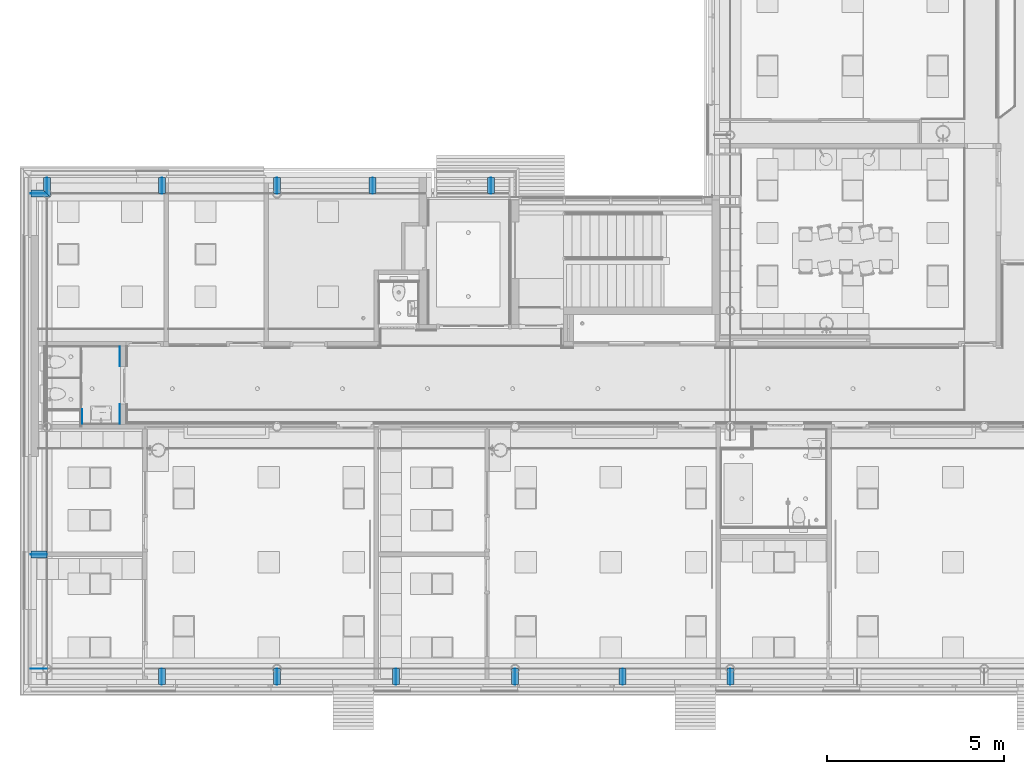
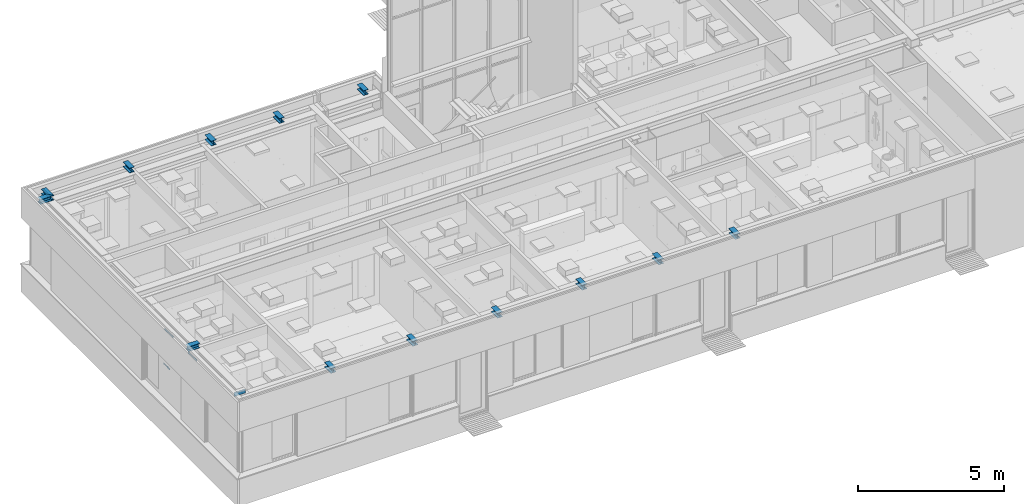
# One storey, part 127 of 347: 43 building element parts, 17 elements without a shape of their own.
"""IFC2X3 building model written with IfcOpenShell, lengths in millimetres."""

from ifc_helpers import new_model, entity, si_unit, converted_unit, derived_unit, money_unit, direction, frame, origin_with_axes, place, context, subcontext, project, spatial, faceted_brep, material, type_object, element, aggregate, save


model = new_model("IFC2X3")

# Units and contexts
model_context = context("Model", 3, precision=0.01, world=origin_with_axes(), true_north=direction((0.0, 1.0)))
plan_context = context("Plan", 3, precision=0.01, world=origin_with_axes(), true_north=direction((0.0, 1.0)))
body_context = subcontext(model_context, "Body", "Model", "MODEL_VIEW")
ifc_project = project(units=[si_unit("LENGTHUNIT", "METRE", prefix="MILLI"), si_unit("AREAUNIT", "SQUARE_METRE"), si_unit("VOLUMEUNIT", "CUBIC_METRE"), converted_unit("PLANEANGLEUNIT", "DEGREE", entity("IfcPlaneAngleMeasure", 0.0174532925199), si_unit("PLANEANGLEUNIT", "RADIAN"), dimensions=[0, 0, 0, 0, 0, 0, 0]), money_unit("EUR"), converted_unit("TIMEUNIT", "Year", entity("IfcTimeMeasure", 31556926.0), si_unit("TIMEUNIT", "SECOND"), dimensions=[0, 0, 1, 0, 0, 0, 0]), si_unit("MASSUNIT", "GRAM", prefix="KILO"), si_unit("THERMODYNAMICTEMPERATUREUNIT", "DEGREE_CELSIUS"), si_unit("LUMINOUSINTENSITYUNIT", "LUMEN"), si_unit("ENERGYUNIT", "JOULE", prefix="MEGA"), derived_unit("THERMALCONDUCTANCEUNIT", [(si_unit("POWERUNIT", "WATT"), 1), (si_unit("LENGTHUNIT", "METRE"), -1), (si_unit("THERMODYNAMICTEMPERATUREUNIT", "KELVIN"), -1)]), derived_unit("SPECIFICHEATCAPACITYUNIT", [(si_unit("ENERGYUNIT", "JOULE"), 1), (si_unit("MASSUNIT", "GRAM", prefix="KILO"), -1), (si_unit("THERMODYNAMICTEMPERATUREUNIT", "KELVIN"), -1)]), derived_unit("MASSDENSITYUNIT", [(si_unit("MASSUNIT", "GRAM", prefix="KILO"), 1), (si_unit("VOLUMEUNIT", "CUBIC_METRE"), -1)])], contexts=[model_context, plan_context])

# Site, building, storey
site_placement = place(None, origin_with_axes())
site = spatial("IfcSite", under=ifc_project, at=site_placement, Name="Site", CompositionType="ELEMENT")
building_placement = place(site_placement, origin_with_axes())
building = spatial("IfcBuilding", under=site, at=building_placement, Name="Naam gebouw", CompositionType="ELEMENT")
storey_placement = place(building_placement, origin_with_axes())
storey = spatial("IfcBuildingStorey", under=building, at=storey_placement, Name="begane grond", CompositionType="ELEMENT", Elevation=0.0)

# Beam, building element parts
beam_type = type_object("IfcBeamType", Name="28 HEB200 200 x 200", PredefinedType="BEAM")
beam_1_placement = place(storey_placement, frame((18505.0, 4850.0, 3560.0), z_axis=(0.0, 0.0, 1.0), x_axis=(1.0, 0.0, 0.0)))
beam_1 = element("IfcBeam", 1, at=beam_1_placement, inside=storey, type_object=beam_type, Name="28_Balk-x", ObjectType="BEAM")
ifc_material_1 = material(Name="Metaal - Staal C")
building_element_part_1_placement = place(beam_1_placement, origin_with_axes())
building_element_part_1 = element("IfcBuildingElementPart", 2, at=building_element_part_1_placement, material=ifc_material_1, Name="Metaal - Staal C", context=body_context, shape_type="Brep", body=[
    faceted_brep([(-100.0, 450.0, 185.0), (-4.5, 450.0, 185.0), (-4.5, 0.0, 185.0), (-100.0, 0.0, 185.0), (-100.0, 450.0, 200.0), (100.0, 450.0, 200.0), (100.0, 450.0, 185.0), (4.5, 450.0, 185.0), (4.5, 0.0, 185.0), (100.0, 0.0, 185.0), (100.0, 0.0, 200.0), (-100.0, 0.0, 200.0)], [[[0, 1, 2, 3]], [[0, 4, 5, 6, 7, 1]], [[1, 7, 8, 2]], [[3, 2, 8, 9, 10, 11]], [[4, 0, 3, 11]], [[5, 4, 11, 10]], [[6, 5, 10, 9]], [[7, 6, 9, 8]]]),
])
building_element_part_2_placement = place(beam_1_placement, origin_with_axes())
building_element_part_2 = element("IfcBuildingElementPart", 3, at=building_element_part_2_placement, material=ifc_material_1, Name="Metaal - Staal C", context=body_context, shape_type="Brep", body=[
    faceted_brep([(-100.0, 450.0, 15.0), (-100.0, 450.0, 0.0), (-100.0, 0.0, 0.0), (-100.0, 0.0, 15.0), (-4.5, 450.0, 15.0), (4.5, 450.0, 15.0), (100.0, 450.0, 15.0), (100.0, 450.0, 0.0), (100.0, 0.0, 0.0), (100.0, 0.0, 15.0), (4.5, 0.0, 15.0), (-4.5, 0.0, 15.0)], [[[0, 1, 2, 3]], [[0, 4, 5, 6, 7, 1]], [[1, 7, 8, 2]], [[3, 2, 8, 9, 10, 11]], [[4, 0, 3, 11]], [[5, 4, 11, 10]], [[6, 5, 10, 9]], [[7, 6, 9, 8]]]),
])
building_element_part_3_placement = place(beam_1_placement, origin_with_axes())
building_element_part_3 = element("IfcBuildingElementPart", 4, at=building_element_part_3_placement, material=ifc_material_1, Name="Metaal - Staal C", context=body_context, shape_type="Brep", body=[
    faceted_brep([(-4.5, 450.0, 15.0), (4.5, 450.0, 15.0), (4.5, 0.0, 15.0), (-4.5, 0.0, 15.0), (-4.5, 450.0, 185.0), (4.5, 450.0, 185.0), (4.5, 0.0, 185.0), (-4.5, 0.0, 185.0)], [[[0, 1, 2, 3]], [[0, 4, 5, 1]], [[1, 5, 6, 2]], [[3, 2, 6, 7]], [[4, 0, 3, 7]], [[5, 4, 7, 6]]]),
])
aggregate(beam_1, [building_element_part_1, building_element_part_2, building_element_part_3])

beam_2_placement = place(storey_placement, frame((24575.0, 4850.0, 3560.0), z_axis=(0.0, 0.0, 1.0), x_axis=(1.0, 0.0, 0.0)))
beam_2 = element("IfcBeam", 5, at=beam_2_placement, inside=storey, type_object=beam_type, Name="28_Balk-x", ObjectType="BEAM")
building_element_part_4_placement = place(beam_2_placement, origin_with_axes())
building_element_part_4 = element("IfcBuildingElementPart", 6, at=building_element_part_4_placement, material=ifc_material_1, Name="Metaal - Staal C", context=body_context, shape_type="Brep", body=[
    faceted_brep([(-100.0, 450.0, 185.0), (-4.5, 450.0, 185.0), (-4.5, 0.0, 185.0), (-100.0, 0.0, 185.0), (-100.0, 450.0, 200.0), (100.0, 450.0, 200.0), (100.0, 450.0, 185.0), (4.5, 450.0, 185.0), (4.5, 0.0, 185.0), (100.0, 0.0, 185.0), (100.0, 0.0, 200.0), (-100.0, 0.0, 200.0)], [[[0, 1, 2, 3]], [[0, 4, 5, 6, 7, 1]], [[1, 7, 8, 2]], [[3, 2, 8, 9, 10, 11]], [[4, 0, 3, 11]], [[5, 4, 11, 10]], [[6, 5, 10, 9]], [[7, 6, 9, 8]]]),
])
building_element_part_5_placement = place(beam_2_placement, origin_with_axes())
building_element_part_5 = element("IfcBuildingElementPart", 7, at=building_element_part_5_placement, material=ifc_material_1, Name="Metaal - Staal C", context=body_context, shape_type="Brep", body=[
    faceted_brep([(-100.0, 450.0, 15.0), (-100.0, 450.0, 0.0), (-100.0, 0.0, 0.0), (-100.0, 0.0, 15.0), (-4.5, 450.0, 15.0), (4.5, 450.0, 15.0), (100.0, 450.0, 15.0), (100.0, 450.0, 0.0), (100.0, 0.0, 0.0), (100.0, 0.0, 15.0), (4.5, 0.0, 15.0), (-4.5, 0.0, 15.0)], [[[0, 1, 2, 3]], [[0, 4, 5, 6, 7, 1]], [[1, 7, 8, 2]], [[3, 2, 8, 9, 10, 11]], [[4, 0, 3, 11]], [[5, 4, 11, 10]], [[6, 5, 10, 9]], [[7, 6, 9, 8]]]),
])
building_element_part_6_placement = place(beam_2_placement, origin_with_axes())
building_element_part_6 = element("IfcBuildingElementPart", 8, at=building_element_part_6_placement, material=ifc_material_1, Name="Metaal - Staal C", context=body_context, shape_type="Brep", body=[
    faceted_brep([(-4.5, 450.0, 15.0), (4.5, 450.0, 15.0), (4.5, 0.0, 15.0), (-4.5, 0.0, 15.0), (-4.5, 450.0, 185.0), (4.5, 450.0, 185.0), (4.5, 0.0, 185.0), (-4.5, 0.0, 185.0)], [[[0, 1, 2, 3]], [[0, 4, 5, 1]], [[1, 5, 6, 2]], [[3, 2, 6, 7]], [[4, 0, 3, 7]], [[5, 4, 7, 6]]]),
])
aggregate(beam_2, [building_element_part_4, building_element_part_5, building_element_part_6])

beam_3_placement = place(storey_placement, frame((8540.0, 4849.9999999, 3560.0), z_axis=(0.0, 0.0, 1.0), x_axis=(1.0, 0.0, 0.0)))
beam_3 = element("IfcBeam", 9, at=beam_3_placement, inside=storey, type_object=beam_type, Name="28_Balk-x", ObjectType="BEAM")
building_element_part_7_placement = place(beam_3_placement, origin_with_axes())
building_element_part_7 = element("IfcBuildingElementPart", 10, at=building_element_part_7_placement, material=ifc_material_1, Name="Metaal - Staal C", context=body_context, shape_type="Brep", body=[
    faceted_brep([(-100.0, 450.0, 185.0), (-4.5, 450.0, 185.0), (-4.5, 0.0, 185.0), (-100.0, 0.0, 185.0), (-100.0, 450.0, 200.0), (100.0, 450.0, 200.0), (100.0, 450.0, 185.0), (4.5, 450.0, 185.0), (4.5, 0.0, 185.0), (100.0, 0.0, 185.0), (100.0, 0.0, 200.0), (-100.0, 0.0, 200.0)], [[[0, 1, 2, 3]], [[0, 4, 5, 6, 7, 1]], [[1, 7, 8, 2]], [[3, 2, 8, 9, 10, 11]], [[4, 0, 3, 11]], [[5, 4, 11, 10]], [[6, 5, 10, 9]], [[7, 6, 9, 8]]]),
])
building_element_part_8_placement = place(beam_3_placement, origin_with_axes())
building_element_part_8 = element("IfcBuildingElementPart", 11, at=building_element_part_8_placement, material=ifc_material_1, Name="Metaal - Staal C", context=body_context, shape_type="Brep", body=[
    faceted_brep([(-100.0, 450.0, 15.0), (-100.0, 450.0, 0.0), (-100.0, 0.0, 0.0), (-100.0, 0.0, 15.0), (-4.5, 450.0, 15.0), (4.5, 450.0, 15.0), (100.0, 450.0, 15.0), (100.0, 450.0, 0.0), (100.0, 0.0, 0.0), (100.0, 0.0, 15.0), (4.5, 0.0, 15.0), (-4.5, 0.0, 15.0)], [[[0, 1, 2, 3]], [[0, 4, 5, 6, 7, 1]], [[1, 7, 8, 2]], [[3, 2, 8, 9, 10, 11]], [[4, 0, 3, 11]], [[5, 4, 11, 10]], [[6, 5, 10, 9]], [[7, 6, 9, 8]]]),
])
building_element_part_9_placement = place(beam_3_placement, origin_with_axes())
building_element_part_9 = element("IfcBuildingElementPart", 12, at=building_element_part_9_placement, material=ifc_material_1, Name="Metaal - Staal C", context=body_context, shape_type="Brep", body=[
    faceted_brep([(-4.5, 450.0, 15.0), (4.5, 450.0, 15.0), (4.5, 0.0, 15.0), (-4.5, 0.0, 15.0), (-4.5, 450.0, 185.0), (4.5, 450.0, 185.0), (4.5, 0.0, 185.0), (-4.5, 0.0, 185.0)], [[[0, 1, 2, 3]], [[0, 4, 5, 1]], [[1, 5, 6, 2]], [[3, 2, 6, 7]], [[4, 0, 3, 7]], [[5, 4, 7, 6]]]),
])
aggregate(beam_3, [building_element_part_7, building_element_part_8, building_element_part_9])

beam_4_placement = place(storey_placement, frame((15146.25, 4850.0000004, 3560.0), z_axis=(0.0, 0.0, 1.0), x_axis=(1.0, 0.0, 0.0)))
beam_4 = element("IfcBeam", 13, at=beam_4_placement, inside=storey, type_object=beam_type, Name="28_Balk-x", ObjectType="BEAM")
building_element_part_10_placement = place(beam_4_placement, origin_with_axes())
building_element_part_10 = element("IfcBuildingElementPart", 14, at=building_element_part_10_placement, material=ifc_material_1, Name="Metaal - Staal C", context=body_context, shape_type="Brep", body=[
    faceted_brep([(-100.0, 450.0, 185.0), (-4.5, 450.0, 185.0), (-4.5, 0.0, 185.0), (-100.0, 0.0, 185.0), (-100.0, 450.0, 200.0), (100.0, 450.0, 200.0), (100.0, 450.0, 185.0), (4.5, 450.0, 185.0), (4.5, 0.0, 185.0), (100.0, 0.0, 185.0), (100.0, 0.0, 200.0), (-100.0, 0.0, 200.0)], [[[0, 1, 2, 3]], [[0, 4, 5, 6, 7, 1]], [[1, 7, 8, 2]], [[3, 2, 8, 9, 10, 11]], [[4, 0, 3, 11]], [[5, 4, 11, 10]], [[6, 5, 10, 9]], [[7, 6, 9, 8]]]),
])
building_element_part_11_placement = place(beam_4_placement, origin_with_axes())
building_element_part_11 = element("IfcBuildingElementPart", 15, at=building_element_part_11_placement, material=ifc_material_1, Name="Metaal - Staal C", context=body_context, shape_type="Brep", body=[
    faceted_brep([(-100.0, 450.0, 15.0), (-100.0, 450.0, 0.0), (-100.0, 0.0, 0.0), (-100.0, 0.0, 15.0), (-4.5, 450.0, 15.0), (4.5, 450.0, 15.0), (100.0, 450.0, 15.0), (100.0, 450.0, 0.0), (100.0, 0.0, 0.0), (100.0, 0.0, 15.0), (4.5, 0.0, 15.0), (-4.5, 0.0, 15.0)], [[[0, 1, 2, 3]], [[0, 4, 5, 6, 7, 1]], [[1, 7, 8, 2]], [[3, 2, 8, 9, 10, 11]], [[4, 0, 3, 11]], [[5, 4, 11, 10]], [[6, 5, 10, 9]], [[7, 6, 9, 8]]]),
])
building_element_part_12_placement = place(beam_4_placement, origin_with_axes())
building_element_part_12 = element("IfcBuildingElementPart", 16, at=building_element_part_12_placement, material=ifc_material_1, Name="Metaal - Staal C", context=body_context, shape_type="Brep", body=[
    faceted_brep([(-4.5, 450.0, 15.0), (4.5, 450.0, 15.0), (4.5, 0.0, 15.0), (-4.5, 0.0, 15.0), (-4.5, 450.0, 185.0), (4.5, 450.0, 185.0), (4.5, 0.0, 185.0), (-4.5, 0.0, 185.0)], [[[0, 1, 2, 3]], [[0, 4, 5, 1]], [[1, 5, 6, 2]], [[3, 2, 6, 7]], [[4, 0, 3, 7]], [[5, 4, 7, 6]]]),
])
aggregate(beam_4, [building_element_part_10, building_element_part_11, building_element_part_12])

beam_5_placement = place(storey_placement, frame((11787.5, 18700.0000001, 3560.0), z_axis=(0.0, 0.0, 1.0), x_axis=(1.0, 0.0, 0.0)))
beam_5 = element("IfcBeam", 17, at=beam_5_placement, inside=storey, type_object=beam_type, Name="28_Balk-x", ObjectType="BEAM")
building_element_part_13_placement = place(beam_5_placement, origin_with_axes())
building_element_part_13 = element("IfcBuildingElementPart", 18, at=building_element_part_13_placement, material=ifc_material_1, Name="Metaal - Staal C", context=body_context, shape_type="Brep", body=[
    faceted_brep([(-100.0, 450.0, 185.0), (-4.5, 450.0, 185.0), (-4.5, 0.0, 185.0), (-100.0, 0.0, 185.0), (-100.0, 450.0, 200.0), (100.0, 450.0, 200.0), (100.0, 450.0, 185.0), (4.5, 450.0, 185.0), (4.5, 0.0, 185.0), (100.0, 0.0, 185.0), (100.0, 0.0, 200.0), (-100.0, 0.0, 200.0)], [[[0, 1, 2, 3]], [[0, 4, 5, 6, 7, 1]], [[1, 7, 8, 2]], [[3, 2, 8, 9, 10, 11]], [[4, 0, 3, 11]], [[5, 4, 11, 10]], [[6, 5, 10, 9]], [[7, 6, 9, 8]]]),
])
building_element_part_14_placement = place(beam_5_placement, origin_with_axes())
building_element_part_14 = element("IfcBuildingElementPart", 19, at=building_element_part_14_placement, material=ifc_material_1, Name="Metaal - Staal C", context=body_context, shape_type="Brep", body=[
    faceted_brep([(-100.0, 450.0, 15.0), (-100.0, 450.0, 0.0), (-100.0, 0.0, 0.0), (-100.0, 0.0, 15.0), (-4.5, 450.0, 15.0), (4.5, 450.0, 15.0), (100.0, 450.0, 15.0), (100.0, 450.0, 0.0), (100.0, 0.0, 0.0), (100.0, 0.0, 15.0), (4.5, 0.0, 15.0), (-4.5, 0.0, 15.0)], [[[0, 1, 2, 3]], [[0, 4, 5, 6, 7, 1]], [[1, 7, 8, 2]], [[3, 2, 8, 9, 10, 11]], [[4, 0, 3, 11]], [[5, 4, 11, 10]], [[6, 5, 10, 9]], [[7, 6, 9, 8]]]),
])
building_element_part_15_placement = place(beam_5_placement, origin_with_axes())
building_element_part_15 = element("IfcBuildingElementPart", 20, at=building_element_part_15_placement, material=ifc_material_1, Name="Metaal - Staal C", context=body_context, shape_type="Brep", body=[
    faceted_brep([(-4.5, 450.0, 15.0), (4.5, 450.0, 15.0), (4.5, 0.0, 15.0), (-4.5, 0.0, 15.0), (-4.5, 450.0, 185.0), (4.5, 450.0, 185.0), (4.5, 0.0, 185.0), (-4.5, 0.0, 185.0)], [[[0, 1, 2, 3]], [[0, 4, 5, 1]], [[1, 5, 6, 2]], [[3, 2, 6, 7]], [[4, 0, 3, 7]], [[5, 4, 7, 6]]]),
])
aggregate(beam_5, [building_element_part_13, building_element_part_14, building_element_part_15])

beam_6_placement = place(storey_placement, frame((11787.5, 4849.9999999, 3560.0), z_axis=(0.0, 0.0, 1.0), x_axis=(1.0, 0.0, 0.0)))
beam_6 = element("IfcBeam", 21, at=beam_6_placement, inside=storey, type_object=beam_type, Name="28_Balk-x", ObjectType="BEAM")
building_element_part_16_placement = place(beam_6_placement, origin_with_axes())
building_element_part_16 = element("IfcBuildingElementPart", 22, at=building_element_part_16_placement, material=ifc_material_1, Name="Metaal - Staal C", context=body_context, shape_type="Brep", body=[
    faceted_brep([(-100.0, 450.0, 185.0), (-4.5, 450.0, 185.0), (-4.5, 0.0, 185.0), (-100.0, 0.0, 185.0), (-100.0, 450.0, 200.0), (100.0, 450.0, 200.0), (100.0, 450.0, 185.0), (4.5, 450.0, 185.0), (4.5, 0.0, 185.0), (100.0, 0.0, 185.0), (100.0, 0.0, 200.0), (-100.0, 0.0, 200.0)], [[[0, 1, 2, 3]], [[0, 4, 5, 6, 7, 1]], [[1, 7, 8, 2]], [[3, 2, 8, 9, 10, 11]], [[4, 0, 3, 11]], [[5, 4, 11, 10]], [[6, 5, 10, 9]], [[7, 6, 9, 8]]]),
])
building_element_part_17_placement = place(beam_6_placement, origin_with_axes())
building_element_part_17 = element("IfcBuildingElementPart", 23, at=building_element_part_17_placement, material=ifc_material_1, Name="Metaal - Staal C", context=body_context, shape_type="Brep", body=[
    faceted_brep([(-100.0, 450.0, 15.0), (-100.0, 450.0, 0.0), (-100.0, 0.0, 0.0), (-100.0, 0.0, 15.0), (-4.5, 450.0, 15.0), (4.5, 450.0, 15.0), (100.0, 450.0, 15.0), (100.0, 450.0, 0.0), (100.0, 0.0, 0.0), (100.0, 0.0, 15.0), (4.5, 0.0, 15.0), (-4.5, 0.0, 15.0)], [[[0, 1, 2, 3]], [[0, 4, 5, 6, 7, 1]], [[1, 7, 8, 2]], [[3, 2, 8, 9, 10, 11]], [[4, 0, 3, 11]], [[5, 4, 11, 10]], [[6, 5, 10, 9]], [[7, 6, 9, 8]]]),
])
building_element_part_18_placement = place(beam_6_placement, origin_with_axes())
building_element_part_18 = element("IfcBuildingElementPart", 24, at=building_element_part_18_placement, material=ifc_material_1, Name="Metaal - Staal C", context=body_context, shape_type="Brep", body=[
    faceted_brep([(-4.5, 450.0, 15.0), (4.5, 450.0, 15.0), (4.5, 0.0, 15.0), (-4.5, 0.0, 15.0), (-4.5, 450.0, 185.0), (4.5, 450.0, 185.0), (4.5, 0.0, 185.0), (-4.5, 0.0, 185.0)], [[[0, 1, 2, 3]], [[0, 4, 5, 1]], [[1, 5, 6, 2]], [[3, 2, 6, 7]], [[4, 0, 3, 7]], [[5, 4, 7, 6]]]),
])
aggregate(beam_6, [building_element_part_16, building_element_part_17, building_element_part_18])

# Proxy, building element part
building_element_proxy_type = type_object("IfcBuildingElementProxyType", Name="wandtegels 150x300 2600+ 10 x 2600", PredefinedType="NOTDEFINED")
proxy_1_placement = place(storey_placement, frame((6285.00002634, 12610.0000183, 0.0), z_axis=(0.0, 0.0, 1.0), x_axis=(0.0, -1.0, 0.0)))
proxy_1 = element("IfcBuildingElementProxy", 25, at=proxy_1_placement, inside=storey, type_object=building_element_proxy_type, Name="42_54 wandtegels keramisch")
ifc_material_2 = material(Name="48 vloeivloer Bolidt")
building_element_part_19_placement = place(proxy_1_placement, origin_with_axes())
building_element_part_19 = element("IfcBuildingElementPart", 26, at=building_element_part_19_placement, material=ifc_material_2, Name="48 vloeivloer Bolidt", context=body_context, shape_type="Brep", body=[
    faceted_brep([(-8.00001490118, 10.0000089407, 0.0), (-8.00001490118, 10.0000089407, 50.0000059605), (404.500007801, 10.0000089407, 50.0000059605), (404.500007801, 10.0000089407, 0.0), (-8.00001490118, 8.00001490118, 50.0000059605), (-8.00001490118, 8.00001490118, 0.0), (404.500007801, 8.00001490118, 50.0000059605), (404.500007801, 8.00001490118, 0.0)], [[[0, 1, 2, 3]], [[4, 1, 0, 5]], [[1, 4, 6, 2]], [[7, 3, 2, 6]], [[5, 0, 3, 7]], [[4, 5, 7, 6]]]),
])
aggregate(proxy_1, [building_element_part_19])

proxy_2_placement = place(storey_placement, frame((7365.0, 13825.775, 0.0), z_axis=(0.0, 0.0, 1.0), x_axis=(0.0, 1.0, 0.0)))
proxy_2 = element("IfcBuildingElementProxy", 27, at=proxy_2_placement, inside=storey, type_object=building_element_proxy_type, Name="42_50 wandtegels keramisch")
building_element_part_20_placement = place(proxy_2_placement, origin_with_axes())
building_element_part_20 = element("IfcBuildingElementPart", 28, at=building_element_part_20_placement, material=ifc_material_2, Name="48 vloeivloer Bolidt", context=body_context, shape_type="Brep", body=[
    faceted_brep([(556.224978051, 8.00001490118, 0.0), (556.224978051, 8.00001490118, 50.0000059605), (0.0, 8.00001490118, 50.0000059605), (0.0, 8.00001490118, 0.0), (556.224978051, 10.0000089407, 50.0000059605), (556.224978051, 10.0000089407, 0.0), (0.0, 10.0000089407, 50.0000059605), (0.0, 10.0000089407, 0.0)], [[[0, 1, 2, 3]], [[4, 1, 0, 5]], [[1, 4, 6, 2]], [[6, 7, 3, 2]], [[5, 0, 3, 7]], [[4, 5, 7, 6]]]),
])
aggregate(proxy_2, [building_element_part_20])

proxy_3_placement = place(storey_placement, frame((7365.0, 12197.5000075, 0.0), z_axis=(0.0, 0.0, 1.0), x_axis=(0.0, 1.0, 0.0)))
proxy_3 = element("IfcBuildingElementProxy", 29, at=proxy_3_placement, inside=storey, type_object=building_element_proxy_type, Name="42_56 wandtegels keramisch")
building_element_part_21_placement = place(proxy_3_placement, origin_with_axes())
building_element_part_21 = element("IfcBuildingElementPart", 30, at=building_element_part_21_placement, material=ifc_material_2, Name="48 vloeivloer Bolidt", context=body_context, shape_type="Brep", body=[
    faceted_brep([(10.0000089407, 10.0000089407, 50.0000059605), (10.0000089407, 8.00001490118, 50.0000059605), (564.274992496, 8.00001490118, 50.0000059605), (564.274992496, 10.0000089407, 50.0000059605), (10.0000089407, 8.00001490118, 0.0), (10.0000089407, 10.0000089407, 0.0), (564.274992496, 8.00001490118, 0.0), (564.274992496, 10.0000089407, 0.0)], [[[0, 1, 2, 3]], [[4, 1, 0, 5]], [[1, 4, 6, 2]], [[2, 6, 7, 3]], [[5, 0, 3, 7]], [[4, 5, 7, 6]]]),
])
aggregate(proxy_3, [building_element_part_21])

# Beam, building element parts
beam_7_placement = place(storey_placement, frame((21540.0, 4850.0000004, 3560.0), z_axis=(0.0, 0.0, 1.0), x_axis=(1.0, 0.0, 0.0)))
beam_7 = element("IfcBeam", 31, at=beam_7_placement, inside=storey, type_object=beam_type, Name="28_Balk-x", ObjectType="BEAM")
building_element_part_22_placement = place(beam_7_placement, origin_with_axes())
building_element_part_22 = element("IfcBuildingElementPart", 32, at=building_element_part_22_placement, material=ifc_material_1, Name="Metaal - Staal C", context=body_context, shape_type="Brep", body=[
    faceted_brep([(-100.0, 450.0, 185.0), (-4.5, 450.0, 185.0), (-4.5, 0.0, 185.0), (-100.0, 0.0, 185.0), (-100.0, 450.0, 200.0), (100.0, 450.0, 200.0), (100.0, 450.0, 185.0), (4.5, 450.0, 185.0), (4.5, 0.0, 185.0), (100.0, 0.0, 185.0), (100.0, 0.0, 200.0), (-100.0, 0.0, 200.0)], [[[0, 1, 2, 3]], [[0, 4, 5, 6, 7, 1]], [[1, 7, 8, 2]], [[3, 2, 8, 9, 10, 11]], [[4, 0, 3, 11]], [[5, 4, 11, 10]], [[6, 5, 10, 9]], [[7, 6, 9, 8]]]),
])
building_element_part_23_placement = place(beam_7_placement, origin_with_axes())
building_element_part_23 = element("IfcBuildingElementPart", 33, at=building_element_part_23_placement, material=ifc_material_1, Name="Metaal - Staal C", context=body_context, shape_type="Brep", body=[
    faceted_brep([(-100.0, 450.0, 15.0), (-100.0, 450.0, 0.0), (-100.0, 0.0, 0.0), (-100.0, 0.0, 15.0), (-4.5, 450.0, 15.0), (4.5, 450.0, 15.0), (100.0, 450.0, 15.0), (100.0, 450.0, 0.0), (100.0, 0.0, 0.0), (100.0, 0.0, 15.0), (4.5, 0.0, 15.0), (-4.5, 0.0, 15.0)], [[[0, 1, 2, 3]], [[0, 4, 5, 6, 7, 1]], [[1, 7, 8, 2]], [[3, 2, 8, 9, 10, 11]], [[4, 0, 3, 11]], [[5, 4, 11, 10]], [[6, 5, 10, 9]], [[7, 6, 9, 8]]]),
])
building_element_part_24_placement = place(beam_7_placement, origin_with_axes())
building_element_part_24 = element("IfcBuildingElementPart", 34, at=building_element_part_24_placement, material=ifc_material_1, Name="Metaal - Staal C", context=body_context, shape_type="Brep", body=[
    faceted_brep([(-4.5, 450.0, 15.0), (4.5, 450.0, 15.0), (4.5, 0.0, 15.0), (-4.5, 0.0, 15.0), (-4.5, 450.0, 185.0), (4.5, 450.0, 185.0), (4.5, 0.0, 185.0), (-4.5, 0.0, 185.0)], [[[0, 1, 2, 3]], [[0, 4, 5, 1]], [[1, 5, 6, 2]], [[3, 2, 6, 7]], [[4, 0, 3, 7]], [[5, 4, 7, 6]]]),
])
aggregate(beam_7, [building_element_part_22, building_element_part_23, building_element_part_24])

beam_8_placement = place(storey_placement, frame((8543.75, 18700.0000001, 3560.0), z_axis=(0.0, 0.0, 1.0), x_axis=(1.0, 0.0, 0.0)))
beam_8 = element("IfcBeam", 35, at=beam_8_placement, inside=storey, type_object=beam_type, Name="28_Balk-x", ObjectType="BEAM")
building_element_part_25_placement = place(beam_8_placement, origin_with_axes())
building_element_part_25 = element("IfcBuildingElementPart", 36, at=building_element_part_25_placement, material=ifc_material_1, Name="Metaal - Staal C", context=body_context, shape_type="Brep", body=[
    faceted_brep([(-100.0, 450.0, 185.0), (-4.5, 450.0, 185.0), (-4.5, 0.0, 185.0), (-100.0, 0.0, 185.0), (-100.0, 450.0, 200.0), (100.0, 450.0, 200.0), (100.0, 450.0, 185.0), (4.5, 450.0, 185.0), (4.5, 0.0, 185.0), (100.0, 0.0, 185.0), (100.0, 0.0, 200.0), (-100.0, 0.0, 200.0)], [[[0, 1, 2, 3]], [[0, 4, 5, 6, 7, 1]], [[1, 7, 8, 2]], [[3, 2, 8, 9, 10, 11]], [[4, 0, 3, 11]], [[5, 4, 11, 10]], [[6, 5, 10, 9]], [[7, 6, 9, 8]]]),
])
building_element_part_26_placement = place(beam_8_placement, origin_with_axes())
building_element_part_26 = element("IfcBuildingElementPart", 37, at=building_element_part_26_placement, material=ifc_material_1, Name="Metaal - Staal C", context=body_context, shape_type="Brep", body=[
    faceted_brep([(-100.0, 450.0, 15.0), (-100.0, 450.0, 0.0), (-100.0, 0.0, 0.0), (-100.0, 0.0, 15.0), (-4.5, 450.0, 15.0), (4.5, 450.0, 15.0), (100.0, 450.0, 15.0), (100.0, 450.0, 0.0), (100.0, 0.0, 0.0), (100.0, 0.0, 15.0), (4.5, 0.0, 15.0), (-4.5, 0.0, 15.0)], [[[0, 1, 2, 3]], [[0, 4, 5, 6, 7, 1]], [[1, 7, 8, 2]], [[3, 2, 8, 9, 10, 11]], [[4, 0, 3, 11]], [[5, 4, 11, 10]], [[6, 5, 10, 9]], [[7, 6, 9, 8]]]),
])
building_element_part_27_placement = place(beam_8_placement, origin_with_axes())
building_element_part_27 = element("IfcBuildingElementPart", 38, at=building_element_part_27_placement, material=ifc_material_1, Name="Metaal - Staal C", context=body_context, shape_type="Brep", body=[
    faceted_brep([(-4.5, 450.0, 15.0), (4.5, 450.0, 15.0), (4.5, 0.0, 15.0), (-4.5, 0.0, 15.0), (-4.5, 450.0, 185.0), (4.5, 450.0, 185.0), (4.5, 0.0, 185.0), (-4.5, 0.0, 185.0)], [[[0, 1, 2, 3]], [[0, 4, 5, 1]], [[1, 5, 6, 2]], [[3, 2, 6, 7]], [[4, 0, 3, 7]], [[5, 4, 7, 6]]]),
])
aggregate(beam_8, [building_element_part_25, building_element_part_26, building_element_part_27])

beam_9_placement = place(storey_placement, frame((5300.0, 18700.0000001, 3560.0), z_axis=(0.0, 0.0, 1.0), x_axis=(1.0, 0.0, 0.0)))
beam_9 = element("IfcBeam", 39, at=beam_9_placement, inside=storey, type_object=beam_type, Name="28_Balk-x", ObjectType="BEAM")
building_element_part_28_placement = place(beam_9_placement, origin_with_axes())
building_element_part_28 = element("IfcBuildingElementPart", 40, at=building_element_part_28_placement, material=ifc_material_1, Name="Metaal - Staal C", context=body_context, shape_type="Brep", body=[
    faceted_brep([(-100.0, 450.0, 185.0), (-4.5, 450.0, 185.0), (-4.5, 4.49999999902, 185.0), (-100.0, 99.9999999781, 185.0), (-100.0, 450.0, 200.0), (100.0, 450.0, 200.0), (100.0, 450.0, 185.0), (4.5, 450.0, 185.0), (4.5, -4.49999999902, 185.0), (100.0, -99.9999999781, 185.0), (100.0, -99.9999999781, 200.0), (-100.0, 99.9999999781, 200.0)], [[[0, 1, 2, 3]], [[0, 4, 5, 6, 7, 1]], [[1, 7, 8, 2]], [[3, 2, 8, 9, 10, 11]], [[4, 0, 3, 11]], [[5, 4, 11, 10]], [[6, 5, 10, 9]], [[7, 6, 9, 8]]]),
])
building_element_part_29_placement = place(beam_9_placement, origin_with_axes())
building_element_part_29 = element("IfcBuildingElementPart", 41, at=building_element_part_29_placement, material=ifc_material_1, Name="Metaal - Staal C", context=body_context, shape_type="Brep", body=[
    faceted_brep([(-100.0, 450.0, 15.0), (-100.0, 450.0, 0.0), (-100.0, 99.9999999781, 0.0), (-100.0, 99.9999999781, 15.0), (-4.5, 450.0, 15.0), (4.5, 450.0, 15.0), (100.0, 450.0, 15.0), (100.0, 450.0, 0.0), (100.0, -99.9999999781, 0.0), (100.0, -99.9999999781, 15.0), (4.5, -4.49999999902, 15.0), (-4.5, 4.49999999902, 15.0)], [[[0, 1, 2, 3]], [[0, 4, 5, 6, 7, 1]], [[1, 7, 8, 2]], [[3, 2, 8, 9, 10, 11]], [[4, 0, 3, 11]], [[5, 4, 11, 10]], [[6, 5, 10, 9]], [[7, 6, 9, 8]]]),
])
building_element_part_30_placement = place(beam_9_placement, origin_with_axes())
building_element_part_30 = element("IfcBuildingElementPart", 42, at=building_element_part_30_placement, material=ifc_material_1, Name="Metaal - Staal C", context=body_context, shape_type="Brep", body=[
    faceted_brep([(-4.5, 450.0, 15.0), (4.5, 450.0, 15.0), (4.5, -4.49999999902, 15.0), (-4.5, 4.49999999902, 15.0), (-4.5, 450.0, 185.0), (4.5, 450.0, 185.0), (4.5, -4.49999999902, 185.0), (-4.5, 4.49999999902, 185.0)], [[[0, 1, 2, 3]], [[0, 4, 5, 1]], [[1, 5, 6, 2]], [[3, 2, 6, 7]], [[4, 0, 3, 7]], [[5, 4, 7, 6]]]),
])
aggregate(beam_9, [building_element_part_28, building_element_part_29, building_element_part_30])

beam_10_placement = place(storey_placement, frame((14487.5, 18700.0000001, 3560.0), z_axis=(0.0, 0.0, 1.0), x_axis=(1.0, 0.0, 0.0)))
beam_10 = element("IfcBeam", 43, at=beam_10_placement, inside=storey, type_object=beam_type, Name="28_Balk-x", ObjectType="BEAM")
building_element_part_31_placement = place(beam_10_placement, origin_with_axes())
building_element_part_31 = element("IfcBuildingElementPart", 44, at=building_element_part_31_placement, material=ifc_material_1, Name="Metaal - Staal C", context=body_context, shape_type="Brep", body=[
    faceted_brep([(-100.0, 450.0, 185.0), (-4.5, 450.0, 185.0), (-4.5, 0.0, 185.0), (-100.0, 0.0, 185.0), (-100.0, 450.0, 200.0), (100.0, 450.0, 200.0), (100.0, 450.0, 185.0), (4.5, 450.0, 185.0), (4.5, 0.0, 185.0), (100.0, 0.0, 185.0), (100.0, 0.0, 200.0), (-100.0, 0.0, 200.0)], [[[0, 1, 2, 3]], [[0, 4, 5, 6, 7, 1]], [[1, 7, 8, 2]], [[3, 2, 8, 9, 10, 11]], [[4, 0, 3, 11]], [[5, 4, 11, 10]], [[6, 5, 10, 9]], [[7, 6, 9, 8]]]),
])
building_element_part_32_placement = place(beam_10_placement, origin_with_axes())
building_element_part_32 = element("IfcBuildingElementPart", 45, at=building_element_part_32_placement, material=ifc_material_1, Name="Metaal - Staal C", context=body_context, shape_type="Brep", body=[
    faceted_brep([(-100.0, 450.0, 15.0), (-100.0, 450.0, 0.0), (-100.0, 0.0, 0.0), (-100.0, 0.0, 15.0), (-4.5, 450.0, 15.0), (4.5, 450.0, 15.0), (100.0, 450.0, 15.0), (100.0, 450.0, 0.0), (100.0, 0.0, 0.0), (100.0, 0.0, 15.0), (4.5, 0.0, 15.0), (-4.5, 0.0, 15.0)], [[[0, 1, 2, 3]], [[0, 4, 5, 6, 7, 1]], [[1, 7, 8, 2]], [[3, 2, 8, 9, 10, 11]], [[4, 0, 3, 11]], [[5, 4, 11, 10]], [[6, 5, 10, 9]], [[7, 6, 9, 8]]]),
])
building_element_part_33_placement = place(beam_10_placement, origin_with_axes())
building_element_part_33 = element("IfcBuildingElementPart", 46, at=building_element_part_33_placement, material=ifc_material_1, Name="Metaal - Staal C", context=body_context, shape_type="Brep", body=[
    faceted_brep([(-4.5, 450.0, 15.0), (4.5, 450.0, 15.0), (4.5, 0.0, 15.0), (-4.5, 0.0, 15.0), (-4.5, 450.0, 185.0), (4.5, 450.0, 185.0), (4.5, 0.0, 185.0), (-4.5, 0.0, 185.0)], [[[0, 1, 2, 3]], [[0, 4, 5, 1]], [[1, 5, 6, 2]], [[3, 2, 6, 7]], [[4, 0, 3, 7]], [[5, 4, 7, 6]]]),
])
aggregate(beam_10, [building_element_part_31, building_element_part_32, building_element_part_33])

beam_11_placement = place(storey_placement, frame((17825.0, 18700.0000001, 3560.0), z_axis=(0.0, 0.0, 1.0), x_axis=(1.0, 0.0, 0.0)))
beam_11 = element("IfcBeam", 47, at=beam_11_placement, inside=storey, type_object=beam_type, Name="28_Balk-x", ObjectType="BEAM")
building_element_part_34_placement = place(beam_11_placement, origin_with_axes())
building_element_part_34 = element("IfcBuildingElementPart", 48, at=building_element_part_34_placement, material=ifc_material_1, Name="Metaal - Staal C", context=body_context, shape_type="Brep", body=[
    faceted_brep([(-100.0, 450.0, 185.0), (-4.5, 450.0, 185.0), (-4.5, 0.0, 185.0), (-100.0, 0.0, 185.0), (-100.0, 450.0, 200.0), (100.0, 450.0, 200.0), (100.0, 450.0, 185.0), (4.5, 450.0, 185.0), (4.5, 0.0, 185.0), (100.0, 0.0, 185.0), (100.0, 0.0, 200.0), (-100.0, 0.0, 200.0)], [[[0, 1, 2, 3]], [[0, 4, 5, 6, 7, 1]], [[1, 7, 8, 2]], [[3, 2, 8, 9, 10, 11]], [[4, 0, 3, 11]], [[5, 4, 11, 10]], [[6, 5, 10, 9]], [[7, 6, 9, 8]]]),
])
building_element_part_35_placement = place(beam_11_placement, origin_with_axes())
building_element_part_35 = element("IfcBuildingElementPart", 49, at=building_element_part_35_placement, material=ifc_material_1, Name="Metaal - Staal C", context=body_context, shape_type="Brep", body=[
    faceted_brep([(-100.0, 450.0, 15.0), (-100.0, 450.0, 0.0), (-100.0, 0.0, 0.0), (-100.0, 0.0, 15.0), (-4.5, 450.0, 15.0), (4.5, 450.0, 15.0), (100.0, 450.0, 15.0), (100.0, 450.0, 0.0), (100.0, 0.0, 0.0), (100.0, 0.0, 15.0), (4.5, 0.0, 15.0), (-4.5, 0.0, 15.0)], [[[0, 1, 2, 3]], [[0, 4, 5, 6, 7, 1]], [[1, 7, 8, 2]], [[3, 2, 8, 9, 10, 11]], [[4, 0, 3, 11]], [[5, 4, 11, 10]], [[6, 5, 10, 9]], [[7, 6, 9, 8]]]),
])
building_element_part_36_placement = place(beam_11_placement, origin_with_axes())
building_element_part_36 = element("IfcBuildingElementPart", 50, at=building_element_part_36_placement, material=ifc_material_1, Name="Metaal - Staal C", context=body_context, shape_type="Brep", body=[
    faceted_brep([(-4.5, 450.0, 15.0), (4.5, 450.0, 15.0), (4.5, 0.0, 15.0), (-4.5, 0.0, 15.0), (-4.5, 450.0, 185.0), (4.5, 450.0, 185.0), (4.5, 0.0, 185.0), (-4.5, 0.0, 185.0)], [[[0, 1, 2, 3]], [[0, 4, 5, 1]], [[1, 5, 6, 2]], [[3, 2, 6, 7]], [[4, 0, 3, 7]], [[5, 4, 7, 6]]]),
])
aggregate(beam_11, [building_element_part_34, building_element_part_35, building_element_part_36])

beam_12_placement = place(storey_placement, frame((5300.0, 8525.0, 3560.0), z_axis=(0.0, 0.0, 1.0), x_axis=(-2.18705054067e-10, 1.0, 0.0)))
beam_12 = element("IfcBeam", 51, at=beam_12_placement, inside=storey, type_object=beam_type, Name="28_Balk-x", ObjectType="BEAM")
building_element_part_37_placement = place(beam_12_placement, origin_with_axes())
building_element_part_37 = element("IfcBuildingElementPart", 52, at=building_element_part_37_placement, material=ifc_material_1, Name="Metaal - Staal C", context=body_context, shape_type="Brep", body=[
    faceted_brep([(-100.0, 450.0, 185.0), (-4.5, 450.0, 185.0), (-4.5, 0.0, 185.0), (-100.0, 0.0, 185.0), (-100.0, 450.0, 200.0), (100.0, 450.0, 200.0), (100.0, 450.0, 185.0), (4.5, 450.0, 185.0), (4.5, 0.0, 185.0), (100.0, 0.0, 185.0), (100.0, 0.0, 200.0), (-100.0, 0.0, 200.0)], [[[0, 1, 2, 3]], [[0, 4, 5, 6, 7, 1]], [[1, 7, 8, 2]], [[3, 2, 8, 9, 10, 11]], [[4, 0, 3, 11]], [[5, 4, 11, 10]], [[6, 5, 10, 9]], [[7, 6, 9, 8]]]),
])
building_element_part_38_placement = place(beam_12_placement, origin_with_axes())
building_element_part_38 = element("IfcBuildingElementPart", 53, at=building_element_part_38_placement, material=ifc_material_1, Name="Metaal - Staal C", context=body_context, shape_type="Brep", body=[
    faceted_brep([(-100.0, 450.0, 15.0), (-100.0, 450.0, 0.0), (-100.0, 0.0, 0.0), (-100.0, 0.0, 15.0), (-4.5, 450.0, 15.0), (4.5, 450.0, 15.0), (100.0, 450.0, 15.0), (100.0, 450.0, 0.0), (100.0, 0.0, 0.0), (100.0, 0.0, 15.0), (4.5, 0.0, 15.0), (-4.5, 0.0, 15.0)], [[[0, 1, 2, 3]], [[0, 4, 5, 6, 7, 1]], [[1, 7, 8, 2]], [[3, 2, 8, 9, 10, 11]], [[4, 0, 3, 11]], [[5, 4, 11, 10]], [[6, 5, 10, 9]], [[7, 6, 9, 8]]]),
])
building_element_part_39_placement = place(beam_12_placement, origin_with_axes())
building_element_part_39 = element("IfcBuildingElementPart", 54, at=building_element_part_39_placement, material=ifc_material_1, Name="Metaal - Staal C", context=body_context, shape_type="Brep", body=[
    faceted_brep([(-4.5, 450.0, 15.0), (4.5, 450.0, 15.0), (4.5, 0.0, 15.0), (-4.5, 0.0, 15.0), (-4.5, 450.0, 185.0), (4.5, 450.0, 185.0), (4.5, 0.0, 185.0), (-4.5, 0.0, 185.0)], [[[0, 1, 2, 3]], [[0, 4, 5, 1]], [[1, 5, 6, 2]], [[3, 2, 6, 7]], [[4, 0, 3, 7]], [[5, 4, 7, 6]]]),
])
aggregate(beam_12, [building_element_part_37, building_element_part_38, building_element_part_39])

# Beam, building element part
beam_13_placement = place(storey_placement, frame((5300.0, 5300.0, 3560.0), z_axis=(0.0, 0.0, 1.0), x_axis=(-2.18705054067e-10, 1.0, 0.0)))
beam_13 = element("IfcBeam", 55, at=beam_13_placement, inside=storey, type_object=beam_type, Name="28_Balk-x", ObjectType="BEAM")
building_element_part_40_placement = place(beam_13_placement, origin_with_axes())
building_element_part_40 = element("IfcBuildingElementPart", 56, at=building_element_part_40_placement, material=ifc_material_1, Name="Metaal - Staal C", context=body_context, shape_type="Brep", body=[
    faceted_brep([(-4.5, 450.0, 15.0), (4.5, 450.0, 15.0), (4.5, 0.0, 15.0), (-4.5, 0.0, 15.0), (-4.5, 450.0, 185.0), (4.5, 450.0, 185.0), (4.5, 0.0, 185.0), (-4.5, 0.0, 185.0)], [[[0, 1, 2, 3]], [[0, 4, 5, 1]], [[1, 5, 6, 2]], [[3, 2, 6, 7]], [[4, 0, 3, 7]], [[5, 4, 7, 6]]]),
])
aggregate(beam_13, [building_element_part_40])

# Beam, building element parts
beam_14_placement = place(storey_placement, frame((5300.0, 18700.0000001, 3560.0), z_axis=(0.0, 0.0, 1.0), x_axis=(-2.18705054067e-10, 1.0, 0.0)))
beam_14 = element("IfcBeam", 57, at=beam_14_placement, inside=storey, type_object=beam_type, Name="28_Balk-x", ObjectType="BEAM")
building_element_part_41_placement = place(beam_14_placement, origin_with_axes())
building_element_part_41 = element("IfcBuildingElementPart", 58, at=building_element_part_41_placement, material=ifc_material_1, Name="Metaal - Staal C", context=body_context, shape_type="Brep", body=[
    faceted_brep([(-100.0, 450.0, 185.0), (-4.5, 450.0, 185.0), (-4.5, -4.49999999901, 185.0), (-100.0, -99.9999999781, 185.0), (-100.0, 450.0, 200.0), (100.0, 450.0, 200.0), (100.0, 450.0, 185.0), (4.5, 450.0, 185.0), (4.5, 4.49999999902, 185.0), (100.0, 99.9999999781, 185.0), (100.0, 99.9999999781, 200.0), (-100.0, -99.9999999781, 200.0)], [[[0, 1, 2, 3]], [[0, 4, 5, 6, 7, 1]], [[1, 7, 8, 2]], [[3, 2, 8, 9, 10, 11]], [[4, 0, 3, 11]], [[5, 4, 11, 10]], [[6, 5, 10, 9]], [[7, 6, 9, 8]]]),
])
building_element_part_42_placement = place(beam_14_placement, origin_with_axes())
building_element_part_42 = element("IfcBuildingElementPart", 59, at=building_element_part_42_placement, material=ifc_material_1, Name="Metaal - Staal C", context=body_context, shape_type="Brep", body=[
    faceted_brep([(-100.0, 450.0, 15.0), (-100.0, 450.0, 0.0), (-100.0, -99.9999999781, 0.0), (-100.0, -99.9999999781, 15.0), (-4.5, 450.0, 15.0), (4.5, 450.0, 15.0), (100.0, 450.0, 15.0), (100.0, 450.0, 0.0), (100.0, 99.9999999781, 0.0), (100.0, 99.9999999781, 15.0), (4.5, 4.49999999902, 15.0), (-4.5, -4.49999999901, 15.0)], [[[0, 1, 2, 3]], [[0, 4, 5, 6, 7, 1]], [[1, 7, 8, 2]], [[3, 2, 8, 9, 10, 11]], [[4, 0, 3, 11]], [[5, 4, 11, 10]], [[6, 5, 10, 9]], [[7, 6, 9, 8]]]),
])
building_element_part_43_placement = place(beam_14_placement, origin_with_axes())
building_element_part_43 = element("IfcBuildingElementPart", 60, at=building_element_part_43_placement, material=ifc_material_1, Name="Metaal - Staal C", context=body_context, shape_type="Brep", body=[
    faceted_brep([(-4.5, 450.0, 15.0), (4.5, 450.0, 15.0), (4.5, 4.49999999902, 15.0), (-4.5, -4.49999999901, 15.0), (-4.5, 450.0, 185.0), (4.5, 450.0, 185.0), (4.5, 4.49999999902, 185.0), (-4.5, -4.49999999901, 185.0)], [[[0, 1, 2, 3]], [[0, 4, 5, 1]], [[1, 5, 6, 2]], [[3, 2, 6, 7]], [[4, 0, 3, 7]], [[5, 4, 7, 6]]]),
])
aggregate(beam_14, [building_element_part_41, building_element_part_42, building_element_part_43])

save(model, "model.ifc")
